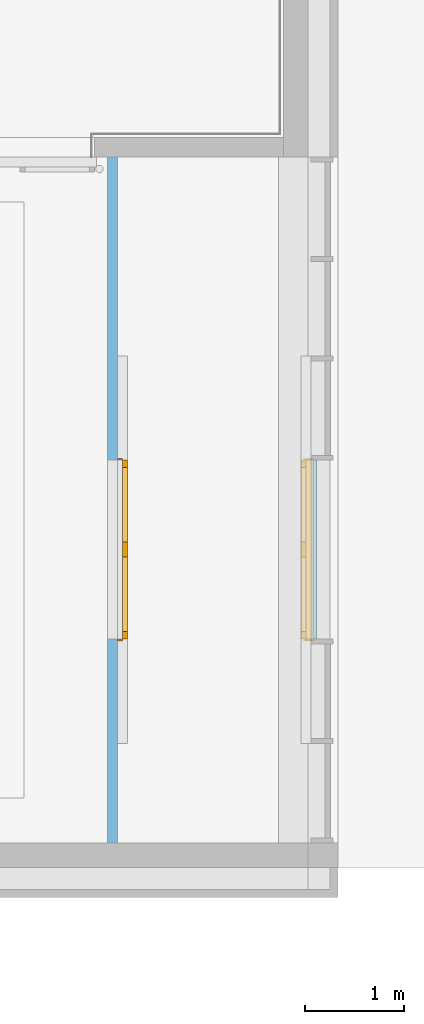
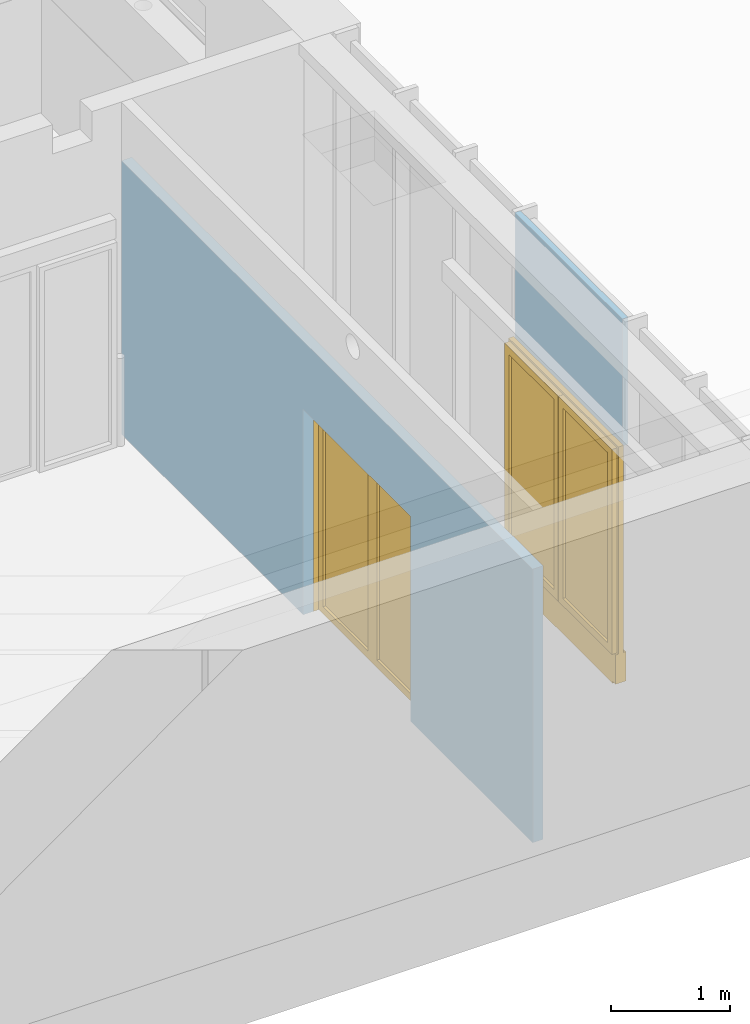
# One storey, part 105 of 140: 2 doors, 2 openings, plus 2 elements that do not belong to this part.
"""IFC4 building model written with IfcOpenShell, lengths in metres."""

from ifc_helpers import new_model, entity, si_unit, converted_unit, derived_unit, frame, frame_2d, origin, origin_with_axes, place, context, subcontext, project, spatial, polyline, rectangle, outline, extrude, closed_shell, open_shell, surface_model, source, transform, mapped, material, layer, layer_set, layer_usage, type_object, element, fill, save


model = new_model("IFC4")

# Units and contexts
model_context = context("Model", 3, precision=1e-05, world=origin())
body_context = subcontext(model_context, "Body", "Model", "MODEL_VIEW")
ifc_project = project(units=[si_unit("LENGTHUNIT", "METRE"), si_unit("AREAUNIT", "SQUARE_METRE"), si_unit("VOLUMEUNIT", "CUBIC_METRE"), si_unit("MASSUNIT", "GRAM", prefix="KILO"), converted_unit("PLANEANGLEUNIT", "DEGREE", entity("IfcPlaneAngleMeasure", 0.0174532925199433), si_unit("PLANEANGLEUNIT", "RADIAN"), dimensions=[0, 0, 0, 0, 0, 0, 0]), derived_unit("THERMALTRANSMITTANCEUNIT", [(si_unit("POWERUNIT", "WATT"), 1), (si_unit("THERMODYNAMICTEMPERATUREUNIT", "KELVIN"), -1), (si_unit("LENGTHUNIT", "METRE"), -2)]), derived_unit("VOLUMETRICFLOWRATEUNIT", [(si_unit("LENGTHUNIT", "METRE"), 3), (converted_unit("TIMEUNIT", "hour", entity("IfcTimeMeasure", 3600.0), si_unit("TIMEUNIT", "SECOND"), dimensions=[0, 0, 1, 0, 0, 0, 0]), -1), (si_unit("LENGTHUNIT", "METRE"), -1)])], contexts=[model_context])

# Site, building, storey
site_placement = place(None, origin())
site = spatial("IfcSite", under=ifc_project, at=site_placement, Name="3. ASŘ", CompositionType="ELEMENT")
building_placement = place(site_placement, origin())
building = spatial("IfcBuilding", under=site, at=building_placement, Name="Pavilon C", CompositionType="ELEMENT")
storey_placement = place(building_placement, origin())
storey = spatial("IfcBuildingStorey", under=building, at=storey_placement, Name="Půdorys 1.NP", CompositionType="ELEMENT", Elevation=0.0)

# Wall, opening, door
ifc_material_1 = material(Name="PROSKLENÁ PŘÍČKA DVOJITÁ")
ifc_layer_1 = layer(ifc_material_1, 0.1)
ifc_layer_set_1 = layer_set([ifc_layer_1])
ifc_layer_usage_1 = layer_usage(ifc_layer_set_1, "AXIS2", "POSITIVE", 0.0)
wall_1_placement = place(storey_placement, frame((53.78, -11.5, 0.0), z_axis=(0.0, 0.0, 1.0), x_axis=(0.0, 1.0, 0.0)))
wall_1 = element("IfcWall", 1, at=wall_1_placement, inside=storey, material=ifc_layer_usage_1, Name="PROSKLENÁ PŘÍČKA DVOJITÁ", context=body_context, shape_type="SweptSolid", body=[
    extrude(rectangle(XDim=6.9, YDim=0.1, at=frame_2d((3.45, 0.05), x_axis=(1.0, 0.0))), origin_with_axes(), (0.0, 0.0, 1.0), 2.8),
])
opening_1_placement = place(wall_1_placement, frame((2.05000000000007, 0.0, 0.0), z_axis=(0.0, 1.0, 0.0), x_axis=(0.0, 0.0, 1.0)))
opening_1 = element("IfcOpeningElement", 2, at=opening_1_placement, cuts=wall_1, Name="Dveřní otvor", ObjectType="Opening", context=body_context, shape_type="SweptSolid", body=[
    extrude(outline(polyline([(0.0, 1.8), (2.1, 1.8), (2.1, 0.0), (0.0, 0.0), (0.0, 1.8)])), origin_with_axes(), (0.0, 0.0, 1.0), 0.1),
])
door_type_1 = type_object("IfcDoorType", Name="I.DH01", OperationType="NOTDEFINED", ParameterTakesPrecedence=False, PredefinedType="DOOR")
shared_shape_1 = source(origin_with_axes(), body_context, "Body", "SurfaceModel", [
    surface_model("IfcShellBasedSurfaceModel", [(0.0, 0.0500000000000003, 2.12), (0.0, 0.05, 1.11492377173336e-17), (0.02, 0.05, 1.11492377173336e-17), (0.02, 0.0500000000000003, 2.12), (0.0, 0.0, 1.72724717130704e-17), (0.0, 2.62900812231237e-16, 2.12), (0.02, 2.62900812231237e-16, 2.12), (0.02, 0.0, 1.72724717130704e-17)], [closed_shell([[[0, 1, 2, 3]], [[4, 5, 6, 7]], [[1, 0, 5, 4]], [[2, 1, 4, 7]], [[3, 2, 7, 6]], [[0, 3, 6, 5]]], orient=[[False], [False], [False], [False], [False], [False]])]),
    surface_model("IfcShellBasedSurfaceModel", [(1.82, 0.0500000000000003, 2.12), (1.82, 0.05, 1.11492377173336e-17), (1.84, 0.05, 1.11492377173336e-17), (1.84, 0.0500000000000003, 2.12), (1.82, 0.0, 1.72724717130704e-17), (1.82, 2.62900812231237e-16, 2.12), (1.84, 2.62900812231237e-16, 2.12), (1.84, 0.0, 1.72724717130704e-17)], [closed_shell([[[0, 1, 2, 3]], [[4, 5, 6, 7]], [[1, 0, 5, 4]], [[2, 1, 4, 7]], [[3, 2, 7, 6]], [[0, 3, 6, 5]]], orient=[[False], [False], [False], [False], [False], [False]])]),
    surface_model("IfcShellBasedSurfaceModel", [(0.02, 0.0500000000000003, 2.12), (0.02, 0.0500000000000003, 2.1), (1.82, 0.0500000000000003, 2.1), (1.82, 0.0500000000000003, 2.12), (0.02, 2.55795384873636e-16, 2.1), (0.02, 2.55795384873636e-16, 2.12), (1.82, 2.55795384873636e-16, 2.12), (1.82, 2.55795384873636e-16, 2.1)], [closed_shell([[[0, 1, 2, 3]], [[4, 5, 6, 7]], [[1, 0, 5, 4]], [[2, 1, 4, 7]], [[3, 2, 7, 6]], [[0, 3, 6, 5]]], orient=[[False], [False], [False], [False], [False], [False]])]),
    surface_model("IfcShellBasedSurfaceModel", [(0.02, 0.1, 2.1), (0.02, 0.1, 5.02600372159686e-18), (0.095, 0.1, 5.02600372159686e-18), (0.095, 0.1, 2.1), (0.02, 0.05, 1.11492377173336e-17), (0.02, 0.0500000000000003, 2.1), (0.095, 0.0500000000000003, 2.1), (0.095, 0.05, 1.11492377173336e-17)], [closed_shell([[[0, 1, 2, 3]], [[4, 5, 6, 7]], [[1, 0, 5, 4]], [[2, 1, 4, 7]], [[3, 2, 7, 6]], [[0, 3, 6, 5]]], orient=[[False], [False], [False], [False], [False], [False]])]),
    surface_model("IfcShellBasedSurfaceModel", [(0.8445, 0.1, 2.1), (0.8445, 0.1, 5.02600372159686e-18), (0.9195, 0.1, 5.02600372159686e-18), (0.9195, 0.1, 2.1), (0.8445, 0.05, 1.11492377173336e-17), (0.8445, 0.0500000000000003, 2.1), (0.9195, 0.0500000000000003, 2.1), (0.9195, 0.05, 1.11492377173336e-17)], [closed_shell([[[0, 1, 2, 3]], [[4, 5, 6, 7]], [[1, 0, 5, 4]], [[2, 1, 4, 7]], [[3, 2, 7, 6]], [[0, 3, 6, 5]]], orient=[[False], [False], [False], [False], [False], [False]])]),
    surface_model("IfcShellBasedSurfaceModel", [(0.095, 0.1, 0.075), (0.095, 0.1, 5.02600372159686e-18), (0.8445, 0.1, 5.02600372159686e-18), (0.8445, 0.1, 0.075), (0.095, 0.05, 1.11492377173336e-17), (0.095, 0.05, 0.075), (0.8445, 0.05, 0.075), (0.8445, 0.05, 1.11492377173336e-17)], [closed_shell([[[0, 1, 2, 3]], [[4, 5, 6, 7]], [[1, 0, 5, 4]], [[2, 1, 4, 7]], [[3, 2, 7, 6]], [[0, 3, 6, 5]]], orient=[[False], [False], [False], [False], [False], [False]])]),
    surface_model("IfcShellBasedSurfaceModel", [(0.095, 0.1, 2.1), (0.095, 0.1, 2.025), (0.8445, 0.1, 2.025), (0.8445, 0.1, 2.1), (0.095, 0.0500000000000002, 2.025), (0.095, 0.0500000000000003, 2.1), (0.8445, 0.0500000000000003, 2.1), (0.8445, 0.0500000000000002, 2.025)], [closed_shell([[[0, 1, 2, 3]], [[4, 5, 6, 7]], [[1, 0, 5, 4]], [[2, 1, 4, 7]], [[3, 2, 7, 6]], [[0, 3, 6, 5]]], orient=[[False], [False], [False], [False], [False], [False]])]),
    surface_model("IfcShellBasedSurfaceModel", [(0.9205, 0.1, 2.1), (0.9205, 0.1, 5.02600372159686e-18), (0.9955, 0.1, 5.02600372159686e-18), (0.9955, 0.1, 2.1), (0.9205, 0.05, 1.11492377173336e-17), (0.9205, 0.0500000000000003, 2.1), (0.9955, 0.0500000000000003, 2.1), (0.9955, 0.05, 1.11492377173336e-17)], [closed_shell([[[0, 1, 2, 3]], [[4, 5, 6, 7]], [[1, 0, 5, 4]], [[2, 1, 4, 7]], [[3, 2, 7, 6]], [[0, 3, 6, 5]]], orient=[[False], [False], [False], [False], [False], [False]])]),
    surface_model("IfcShellBasedSurfaceModel", [(1.745, 0.1, 2.1), (1.745, 0.1, 5.02600372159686e-18), (1.82, 0.1, 5.02600372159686e-18), (1.82, 0.1, 2.1), (1.745, 0.05, 1.11492377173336e-17), (1.745, 0.0500000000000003, 2.1), (1.82, 0.0500000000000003, 2.1), (1.82, 0.05, 1.11492377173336e-17)], [closed_shell([[[0, 1, 2, 3]], [[4, 5, 6, 7]], [[1, 0, 5, 4]], [[2, 1, 4, 7]], [[3, 2, 7, 6]], [[0, 3, 6, 5]]], orient=[[False], [False], [False], [False], [False], [False]])]),
    surface_model("IfcShellBasedSurfaceModel", [(0.9955, 0.1, 0.075), (0.9955, 0.1, 5.02600372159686e-18), (1.745, 0.1, 5.02600372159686e-18), (1.745, 0.1, 0.075), (0.9955, 0.05, 1.11492377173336e-17), (0.9955, 0.05, 0.075), (1.745, 0.05, 0.075), (1.745, 0.05, 1.11492377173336e-17)], [closed_shell([[[0, 1, 2, 3]], [[4, 5, 6, 7]], [[1, 0, 5, 4]], [[2, 1, 4, 7]], [[3, 2, 7, 6]], [[0, 3, 6, 5]]], orient=[[False], [False], [False], [False], [False], [False]])]),
    surface_model("IfcShellBasedSurfaceModel", [(0.9955, 0.1, 2.1), (0.9955, 0.1, 2.025), (1.745, 0.1, 2.025), (1.745, 0.1, 2.1), (0.9955, 0.0500000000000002, 2.025), (0.9955, 0.0500000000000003, 2.1), (1.745, 0.0500000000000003, 2.1), (1.745, 0.0500000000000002, 2.025)], [closed_shell([[[0, 1, 2, 3]], [[4, 5, 6, 7]], [[1, 0, 5, 4]], [[2, 1, 4, 7]], [[3, 2, 7, 6]], [[0, 3, 6, 5]]], orient=[[False], [False], [False], [False], [False], [False]])]),
    surface_model("IfcShellBasedSurfaceModel", [(0.095, 0.075, 0.075), (0.8445, 0.075, 0.075), (0.8445, 0.0750000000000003, 2.025), (0.095, 0.0750000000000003, 2.025)], [open_shell([[[0, 1, 2, 3]]], orient=[[False]])]),
    surface_model("IfcShellBasedSurfaceModel", [(0.9955, 0.075, 0.075), (1.745, 0.075, 0.075), (1.745, 0.0750000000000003, 2.025), (0.9955, 0.0750000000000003, 2.025)], [open_shell([[[0, 1, 2, 3]]], orient=[[False]])]),
])
door_1_placement = place(opening_1_placement, frame((0.0, -0.0199999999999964, 1.45519152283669e-14), z_axis=(1.0, 0.0, 0.0), x_axis=(0.0, 1.0, -2.44929359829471e-16)))
door_1 = element("IfcDoor", 3, at=door_1_placement, inside=storey, type_object=door_type_1, Name="I.DH01", OverallHeight=2.14, OverallWidth=1.88, context=body_context, shape_type="MappedRepresentation", body=[
    mapped(shared_shape_1, transform((0.0, 0.0, 0.0), x_axis=(1.0, 0.0, 0.0), y_axis=(0.0, -1.0, 0.0), z_axis=(0.0, 0.0, 1.0), scale=1.0)),
])
fill(opening_1, door_1)

ifc_material_2 = material(Name="PROSKLENÁ FASÁDA")
ifc_layer_2 = layer(ifc_material_2, 0.055)
ifc_layer_set_2 = layer_set([ifc_layer_2])
ifc_layer_usage_2 = layer_usage(ifc_layer_set_2, "AXIS2", "POSITIVE", 0.0)
wall_2_placement = place(storey_placement, frame((55.73, -7.64999999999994, -0.3), z_axis=(0.0, 0.0, 1.0), x_axis=(8.08439734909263e-15, -1.0, 0.0)))
wall_2 = element("IfcWall", 4, at=wall_2_placement, inside=storey, material=ifc_layer_usage_2, Name="PROSKLENÁ PŘÍČKA JEDNODUCHÁ", context=body_context, shape_type="SweptSolid", body=[
    extrude(rectangle(XDim=1.80000000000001, YDim=0.055, at=frame_2d((0.900000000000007, 0.0275), x_axis=(1.0, 0.0))), origin_with_axes(), (0.0, 0.0, 1.0), 3.7),
])
opening_2_placement = place(wall_2_placement, frame((1.80000000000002, 0.055, 0.0), z_axis=(-8.26813365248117e-15, -1.0, 0.0), x_axis=(0.0, 0.0, 1.0)))
opening_2 = element("IfcOpeningElement", 5, at=opening_2_placement, cuts=wall_2, ObjectType="Opening", context=body_context, shape_type="SweptSolid", body=[
    extrude(outline(polyline([(0.0, 1.8), (2.4, 1.8), (2.4, 0.0), (0.0, 0.0), (0.0, 1.8)])), origin_with_axes(), (0.0, 0.0, 1.0), 0.055),
])
door_type_2 = type_object("IfcDoorType", Name="I.DF01", OperationType="NOTDEFINED", ParameterTakesPrecedence=False, PredefinedType="DOOR")
shared_shape_2 = source(origin_with_axes(), body_context, "Body", "SurfaceModel", [
    surface_model("IfcShellBasedSurfaceModel", [(0.0, 0.1, 0.32), (0.0, 0.1, 0.02), (0.05, 0.1, 0.02), (0.05, 0.1, 0.32), (0.0, 0.0, 0.02), (0.0, 4.2632564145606e-17, 0.32), (0.05, 4.2632564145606e-17, 0.32), (0.05, 0.0, 0.02)], [closed_shell([[[0, 1, 2, 3]], [[4, 5, 6, 7]], [[1, 0, 5, 4]], [[2, 1, 4, 7]], [[3, 2, 7, 6]], [[0, 3, 6, 5]]], orient=[[False], [False], [False], [False], [False], [False]])]),
    surface_model("IfcShellBasedSurfaceModel", [(1.79, 0.1, 0.32), (1.79, 0.1, 0.02), (1.84, 0.1, 0.02), (1.84, 0.1, 0.32), (1.79, 0.0, 0.02), (1.79, 4.2632564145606e-17, 0.32), (1.84, 4.2632564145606e-17, 0.32), (1.84, 0.0, 0.02)], [closed_shell([[[0, 1, 2, 3]], [[4, 5, 6, 7]], [[1, 0, 5, 4]], [[2, 1, 4, 7]], [[3, 2, 7, 6]], [[0, 3, 6, 5]]], orient=[[False], [False], [False], [False], [False], [False]])]),
    surface_model("IfcShellBasedSurfaceModel", [(0.05, 0.1, 0.32), (0.05, 0.1, -2.1316282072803e-17), (1.79, 0.1, -2.1316282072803e-17), (1.79, 0.1, 0.32), (0.05, 0.0, -1.06581410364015e-17), (0.05, 4.2632564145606e-17, 0.32), (1.79, 4.2632564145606e-17, 0.32), (1.79, 0.0, -1.06581410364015e-17)], [closed_shell([[[0, 1, 2, 3]], [[4, 5, 6, 7]], [[1, 0, 5, 4]], [[2, 1, 4, 7]], [[3, 2, 7, 6]], [[0, 3, 6, 5]]], orient=[[False], [False], [False], [False], [False], [False]])]),
    surface_model("IfcShellBasedSurfaceModel", [(0.0, 0.0750000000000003, 2.44), (0.0, 0.075, 0.321), (0.02, 0.075, 0.321), (0.02, 0.0750000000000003, 2.44), (0.0, 0.025, 0.321), (0.0, 0.0250000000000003, 2.44), (0.02, 0.0250000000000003, 2.44), (0.02, 0.025, 0.321)], [closed_shell([[[0, 1, 2, 3]], [[4, 5, 6, 7]], [[1, 0, 5, 4]], [[2, 1, 4, 7]], [[3, 2, 7, 6]], [[0, 3, 6, 5]]], orient=[[False], [False], [False], [False], [False], [False]])]),
    surface_model("IfcShellBasedSurfaceModel", [(1.82, 0.0750000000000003, 2.44), (1.82, 0.075, 0.321), (1.84, 0.075, 0.321), (1.84, 0.0750000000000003, 2.44), (1.82, 0.025, 0.321), (1.82, 0.0250000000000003, 2.44), (1.84, 0.0250000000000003, 2.44), (1.84, 0.025, 0.321)], [closed_shell([[[0, 1, 2, 3]], [[4, 5, 6, 7]], [[1, 0, 5, 4]], [[2, 1, 4, 7]], [[3, 2, 7, 6]], [[0, 3, 6, 5]]], orient=[[False], [False], [False], [False], [False], [False]])]),
    surface_model("IfcShellBasedSurfaceModel", [(0.02, 0.0750000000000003, 2.44), (0.02, 0.0750000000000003, 2.42), (1.82, 0.0750000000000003, 2.42), (1.82, 0.0750000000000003, 2.44), (0.02, 0.0250000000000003, 2.42), (0.02, 0.0250000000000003, 2.44), (1.82, 0.0250000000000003, 2.44), (1.82, 0.0250000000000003, 2.42)], [closed_shell([[[0, 1, 2, 3]], [[4, 5, 6, 7]], [[1, 0, 5, 4]], [[2, 1, 4, 7]], [[3, 2, 7, 6]], [[0, 3, 6, 5]]], orient=[[False], [False], [False], [False], [False], [False]])]),
    surface_model("IfcShellBasedSurfaceModel", [(0.02, 0.125, 2.42), (0.02, 0.125, 0.321), (0.095, 0.125, 0.321), (0.095, 0.125, 2.42), (0.02, 0.075, 0.321), (0.02, 0.0750000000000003, 2.42), (0.095, 0.0750000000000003, 2.42), (0.095, 0.075, 0.321)], [closed_shell([[[0, 1, 2, 3]], [[4, 5, 6, 7]], [[1, 0, 5, 4]], [[2, 1, 4, 7]], [[3, 2, 7, 6]], [[0, 3, 6, 5]]], orient=[[False], [False], [False], [False], [False], [False]])]),
    surface_model("IfcShellBasedSurfaceModel", [(0.8445, 0.125, 2.42), (0.8445, 0.125, 0.321), (0.9195, 0.125, 0.321), (0.9195, 0.125, 2.42), (0.8445, 0.075, 0.321), (0.8445, 0.0750000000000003, 2.42), (0.9195, 0.0750000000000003, 2.42), (0.9195, 0.075, 0.321)], [closed_shell([[[0, 1, 2, 3]], [[4, 5, 6, 7]], [[1, 0, 5, 4]], [[2, 1, 4, 7]], [[3, 2, 7, 6]], [[0, 3, 6, 5]]], orient=[[False], [False], [False], [False], [False], [False]])]),
    surface_model("IfcShellBasedSurfaceModel", [(0.095, 0.125, 0.396), (0.095, 0.125, 0.321), (0.8445, 0.125, 0.321), (0.8445, 0.125, 0.396), (0.095, 0.075, 0.321), (0.095, 0.075, 0.396), (0.8445, 0.075, 0.396), (0.8445, 0.075, 0.321)], [closed_shell([[[0, 1, 2, 3]], [[4, 5, 6, 7]], [[1, 0, 5, 4]], [[2, 1, 4, 7]], [[3, 2, 7, 6]], [[0, 3, 6, 5]]], orient=[[False], [False], [False], [False], [False], [False]])]),
    surface_model("IfcShellBasedSurfaceModel", [(0.095, 0.125, 2.42), (0.095, 0.125, 2.345), (0.8445, 0.125, 2.345), (0.8445, 0.125, 2.42), (0.095, 0.0750000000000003, 2.345), (0.095, 0.0750000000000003, 2.42), (0.8445, 0.0750000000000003, 2.42), (0.8445, 0.0750000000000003, 2.345)], [closed_shell([[[0, 1, 2, 3]], [[4, 5, 6, 7]], [[1, 0, 5, 4]], [[2, 1, 4, 7]], [[3, 2, 7, 6]], [[0, 3, 6, 5]]], orient=[[False], [False], [False], [False], [False], [False]])]),
    surface_model("IfcShellBasedSurfaceModel", [(0.9205, 0.125, 2.42), (0.9205, 0.125, 0.321), (0.9955, 0.125, 0.321), (0.9955, 0.125, 2.42), (0.9205, 0.075, 0.321), (0.9205, 0.0750000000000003, 2.42), (0.9955, 0.0750000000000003, 2.42), (0.9955, 0.075, 0.321)], [closed_shell([[[0, 1, 2, 3]], [[4, 5, 6, 7]], [[1, 0, 5, 4]], [[2, 1, 4, 7]], [[3, 2, 7, 6]], [[0, 3, 6, 5]]], orient=[[False], [False], [False], [False], [False], [False]])]),
    surface_model("IfcShellBasedSurfaceModel", [(1.745, 0.125, 2.42), (1.745, 0.125, 0.321), (1.82, 0.125, 0.321), (1.82, 0.125, 2.42), (1.745, 0.075, 0.321), (1.745, 0.0750000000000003, 2.42), (1.82, 0.0750000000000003, 2.42), (1.82, 0.075, 0.321)], [closed_shell([[[0, 1, 2, 3]], [[4, 5, 6, 7]], [[1, 0, 5, 4]], [[2, 1, 4, 7]], [[3, 2, 7, 6]], [[0, 3, 6, 5]]], orient=[[False], [False], [False], [False], [False], [False]])]),
    surface_model("IfcShellBasedSurfaceModel", [(0.9955, 0.125, 0.396), (0.9955, 0.125, 0.321), (1.745, 0.125, 0.321), (1.745, 0.125, 0.396), (0.9955, 0.075, 0.321), (0.9955, 0.075, 0.396), (1.745, 0.075, 0.396), (1.745, 0.075, 0.321)], [closed_shell([[[0, 1, 2, 3]], [[4, 5, 6, 7]], [[1, 0, 5, 4]], [[2, 1, 4, 7]], [[3, 2, 7, 6]], [[0, 3, 6, 5]]], orient=[[False], [False], [False], [False], [False], [False]])]),
    surface_model("IfcShellBasedSurfaceModel", [(0.9955, 0.125, 2.42), (0.9955, 0.125, 2.345), (1.745, 0.125, 2.345), (1.745, 0.125, 2.42), (0.9955, 0.0750000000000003, 2.345), (0.9955, 0.0750000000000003, 2.42), (1.745, 0.0750000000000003, 2.42), (1.745, 0.0750000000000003, 2.345)], [closed_shell([[[0, 1, 2, 3]], [[4, 5, 6, 7]], [[1, 0, 5, 4]], [[2, 1, 4, 7]], [[3, 2, 7, 6]], [[0, 3, 6, 5]]], orient=[[False], [False], [False], [False], [False], [False]])]),
    surface_model("IfcShellBasedSurfaceModel", [(0.095, 0.1, 0.396), (0.8445, 0.1, 0.396), (0.8445, 0.1, 2.345), (0.095, 0.1, 2.345)], [open_shell([[[0, 1, 2, 3]]], orient=[[False]])]),
    surface_model("IfcShellBasedSurfaceModel", [(0.9955, 0.1, 0.396), (1.745, 0.1, 0.396), (1.745, 0.1, 2.345), (0.9955, 0.1, 2.345)], [open_shell([[[0, 1, 2, 3]]], orient=[[False]])]),
])
door_2_placement = place(opening_2_placement, frame((-0.02, 1.82, 0.0300000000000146), z_axis=(1.0, 0.0, 0.0), x_axis=(0.0, -0.999999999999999, -6.12716234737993e-17)))
door_2 = element("IfcDoor", 6, at=door_2_placement, inside=storey, type_object=door_type_2, Name="I.DF01", OverallHeight=2.44, OverallWidth=1.88, context=body_context, shape_type="MappedRepresentation", body=[
    mapped(shared_shape_2, transform((0.0, 0.0, 0.0), x_axis=(1.0, 0.0, 0.0), y_axis=(0.0, -1.0, 0.0), z_axis=(0.0, 0.0, 1.0), scale=0.999999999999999)),
])
fill(opening_2, door_2)

save(model, "model.ifc")
